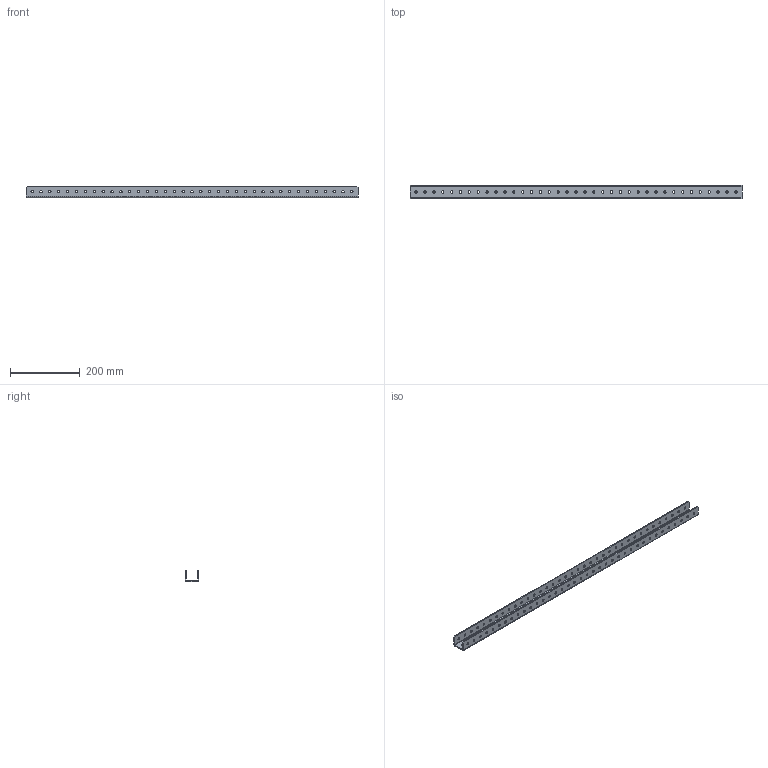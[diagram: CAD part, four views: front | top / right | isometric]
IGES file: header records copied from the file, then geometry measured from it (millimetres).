
Global section: file name: No Iges File Name specified; native system: AutoDesk Inventor R5.0; preprocessor: AutoDesk Inventor Iges Exporter R5.0; author: No Author specified; organization: No Organization specified; date: 20070111.212408; units: inch
Bounding box: 949.33 x 39.37 x 32.04 mm (x, y, z)
Surface area: 185424 mm2 (no closed solid volume)
Topology: 0 solids, 0 shells, 129 faces, 725 edges, 614 vertices
Faces by surface type: bspline 111, plane 14, revolution 4
